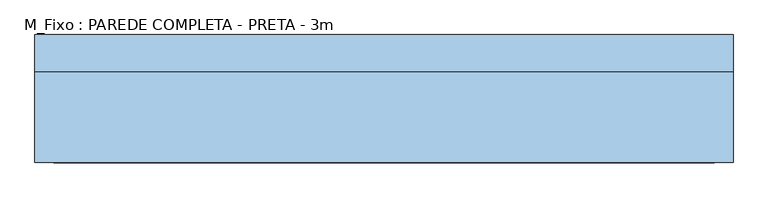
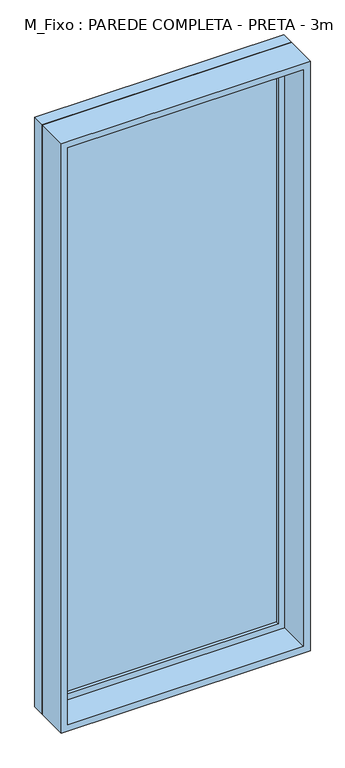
"""IFC4 building model written with IfcOpenShell, lengths in millimetres: window geometry, M_Fixo : PAREDE COMPLETA - PRETA - 3m."""

from ifc_helpers import new_model, si_unit, frame, origin, place, context, project, spatial, polyline, outline, extrude, source, transform, mapped, element, save


def m_fixo_parede_completa_preta_3m_307ec9fa(model_context):
    return source(origin(), model_context, "Body", "SweptSolid", [
        extrude(outline(polyline([(-537.0, 88.0), (537.0, 88.0), (537.0, 76.0), (-537.0, 76.0), (-537.0, 88.0)])), frame((0.0, 0.0, 1563.0), z_axis=(0.0, 0.0, 1.0), x_axis=(1.0, 0.0, 0.0)), (0.0, 0.0, 1.0), 2874.0),
        extrude(outline(polyline([(4481.0, -581.0), (1519.0, -581.0), (1519.0, 581.0), (4481.0, 581.0), (4481.0, -581.0)]), holes=[polyline([(4437.0, -537.0), (4437.0, 537.0), (1563.0, 537.0), (1563.0, -537.0), (4437.0, -537.0)])]), frame((0.0, 60.0, 0.0), z_axis=(0.0, 1.0, 0.0), x_axis=(0.0, 0.0, 1.0)), (0.0, 0.0, 1.0), 44.0),
        extrude(outline(polyline([(4500.0, -600.0), (1500.0, -600.0), (1500.0, 600.0), (4500.0, 600.0), (4500.0, -600.0)]), holes=[polyline([(4481.0, -581.0), (4481.0, 581.0), (1519.0, 581.0), (1519.0, -581.0), (4481.0, -581.0)])]), frame((0.0, 60.0, 0.0), z_axis=(0.0, 1.0, 0.0), x_axis=(0.0, 0.0, 1.0)), (0.0, 0.0, 1.0), 63.0),
        extrude(outline(polyline([(4500.0, -600.0), (1500.0, -600.0), (1500.0, 600.0), (4500.0, 600.0), (4500.0, -600.0)]), holes=[polyline([(4468.0, -568.0), (4468.0, 568.0), (1532.0, 568.0), (1532.0, -568.0), (4468.0, -568.0)])]), frame((0.0, -97.0, 0.0), z_axis=(0.0, 1.0, 0.0), x_axis=(0.0, 0.0, 1.0)), (0.0, 0.0, 1.0), 157.0),
    ])


if __name__ == "__main__":
    model = new_model("IFC4")
    model_context = context("Model", 3, world=origin())
    ifc_project = project(units=[si_unit("LENGTHUNIT", "METRE", prefix="MILLI")], contexts=[model_context])
    site = spatial("IfcSite", under=ifc_project)
    building = spatial("IfcBuilding", under=site)
    placement = place(None, origin())
    m_fixo_parede_completa_preta_3m_shape = m_fixo_parede_completa_preta_3m_307ec9fa(model_context)
    element("IfcWindow", 1, ObjectType="M_Fixo : PAREDE COMPLETA - PRETA - 3m", at=placement, inside=building, context=model_context, shape_type="MappedRepresentation", body=[
        mapped(m_fixo_parede_completa_preta_3m_shape, transform((0.0, 0.0, 0.0), x_axis=(1.0, 0.0, 0.0), y_axis=(0.0, 1.0, 0.0), z_axis=(0.0, 0.0, 1.0))),
    ])
    save(model, "model.ifc")
